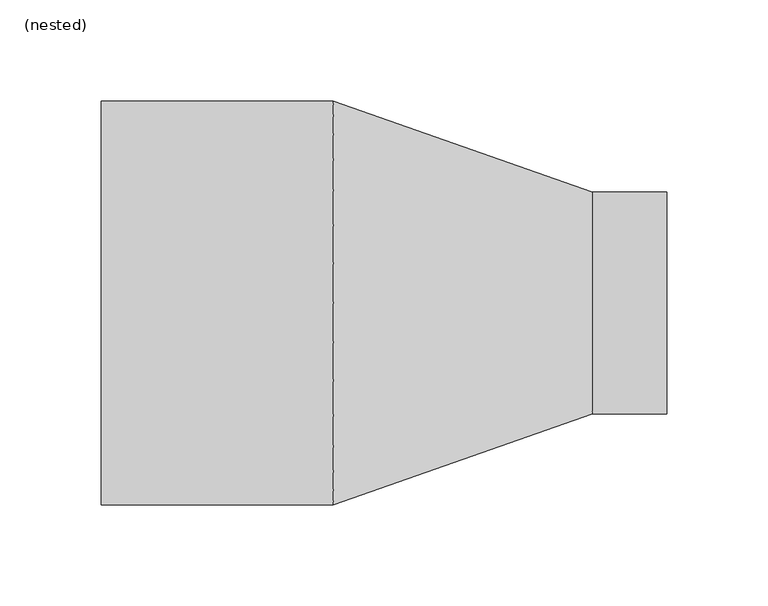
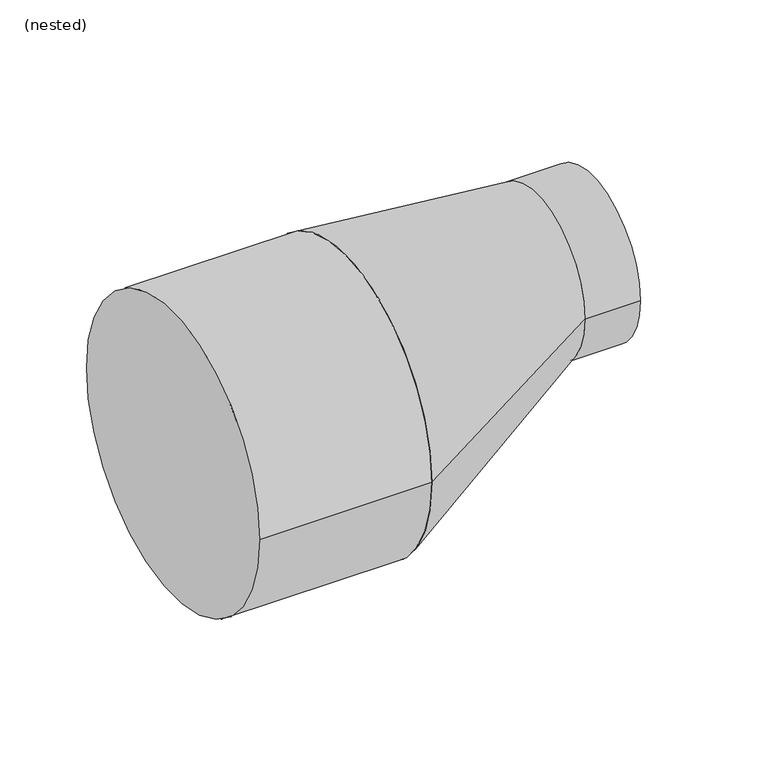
"""IFC4 building model written with IfcOpenShell, lengths in millimetres: pipe fitting geometry, NLRS_52_PIF_UN_PE verloop excentrisch, lang_SH_geb : (nested)."""

from ifc_helpers import new_model, si_unit, point, frame, frame_2d, origin, origin_2d, place, context, project, spatial, circle_curve, trimmed, segment, composite_curve, outline, extrude, source, transform, mapped, element, save
from ifc_brep_helpers import plane_surface, spline_surface, advanced_brep


def nested_0cd4240f(model_context):
    return source(origin(), model_context, "Body", "SolidModel", [
        advanced_brep(
        [(64.0, -55.0, 43.0), (64.0, 55.0, 43.0), (-64.0, -100.0, 0.0), (-64.0, 100.0, 0.0)],
        [
            (0, 1, circle_curve(frame((64.0, 0.0, 43.0), z_axis=(1.0, 0.0, 0.0), x_axis=(0.0, 1.0, 0.0)), 55.0)),
            (1, 0, circle_curve(frame((64.0, 0.0, 43.0), z_axis=(1.0, 0.0, 0.0), x_axis=(0.0, 1.0, 0.0)), 55.0)),
            (2, 3, circle_curve(frame((-64.0, 0.0, 0.0), z_axis=(-1.0, 0.0, 0.0), x_axis=(0.0, 1.0, 0.0)), 100.0)),
            (3, 2, circle_curve(frame((-64.0, 0.0, 0.0), z_axis=(-1.0, 0.0, 0.0), x_axis=(0.0, 1.0, 0.0)), 100.0)),
            (3, 1),
            (0, 2),
        ],
        [
            plane_surface(frame((64.0, 0.0, 43.0), z_axis=(1.0, 0.0, 0.0), x_axis=(0.0, 0.0, -1.0))),
            plane_surface(frame((-64.0, 0.0, 0.0), z_axis=(-1.0, 0.0, 0.0), x_axis=(0.0, 0.0, -1.0))),
            spline_surface(2, 1, [[(-64.0, -100.0, 0.0), (64.0, -55.0, 43.0)], [(-64.0, -100.0, -100.0), (64.0, -55.0, -12.0)], [(-64.0, 0.0, -100.0), (64.0, 0.0, -12.0)], [(-64.0, 100.0, -100.0), (64.0, 55.0, -12.0)], [(-64.0, 100.0, 0.0), (64.0, 55.0, 43.0)]], [3, 2, 3], [2, 2], [0.0, 1.0, 2.0], [0.0, 1.0], weights=[[1.0, 1.0], [0.7071067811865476, 0.7071067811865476], [1.0, 1.0], [0.7071067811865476, 0.7071067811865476], [1.0, 1.0]]),
            spline_surface(2, 1, [[(-64.0, 100.0, 0.0), (64.0, 55.0, 43.0)], [(-64.0, 100.0, 100.0), (64.0, 55.0, 98.0)], [(-64.0, 0.0, 100.0), (64.0, 0.0, 98.0)], [(-64.0, -100.0, 100.0), (64.0, -55.0, 98.0)], [(-64.0, -100.0, 0.0), (64.0, -55.0, 43.0)]], [3, 2, 3], [2, 2], [0.0, 1.0, 2.0], [0.0, 1.0], weights=[[1.0, 1.0], [0.7071067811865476, 0.7071067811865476], [1.0, 1.0], [0.7071067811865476, 0.7071067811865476], [1.0, 1.0]]),
        ],
        [
            (0, [[1, 2]]),
            (1, [[3, 4]]),
            (2, [[-4, 5, -1, 6]]),
            (3, [[-3, -6, -2, -5]]),
        ],
    ),
        extrude(outline(composite_curve([segment(trimmed(circle_curve(frame_2d((0.0, 43.0)), 55.0), [point((-55.0, 43.0))], [point((55.0, 43.0))], False, "CARTESIAN"), True, "CONTINUOUS"), segment(trimmed(circle_curve(frame_2d((0.0, 43.0)), 55.0), [point((55.0, 43.0))], [point((-55.0, 43.0))], False, "CARTESIAN"), True, "CONTINUOUS")], self_intersect=False)), frame((64.0, 0.0, 0.0), z_axis=(1.0, 0.0, 0.0), x_axis=(0.0, 1.0, 0.0)), (0.0, 0.0, 1.0), 37.0),
        extrude(outline(composite_curve([segment(trimmed(circle_curve(origin_2d(), 100.0), [point((-100.0, 0.0))], [point((100.0, 0.0))], False, "CARTESIAN"), True, "CONTINUOUS"), segment(trimmed(circle_curve(origin_2d(), 100.0), [point((100.0, 0.0))], [point((-100.0, 0.0))], False, "CARTESIAN"), True, "CONTINUOUS")], self_intersect=False)), frame((-179.0, 0.0, 0.0), z_axis=(1.0, 0.0, 0.0), x_axis=(0.0, 1.0, 0.0)), (0.0, 0.0, 1.0), 115.0),
    ])


if __name__ == "__main__":
    model = new_model("IFC4")
    model_context = context("Model", 3, world=origin())
    ifc_project = project(units=[si_unit("LENGTHUNIT", "METRE", prefix="MILLI")], contexts=[model_context])
    site = spatial("IfcSite", under=ifc_project)
    building = spatial("IfcBuilding", under=site)
    placement = place(None, origin())
    nested_shape = nested_0cd4240f(model_context)
    element("IfcPipeFitting", 1, ObjectType="NLRS_52_PIF_UN_PE verloop excentrisch, lang_SH_geb : (nested)", at=placement, inside=building, context=model_context, shape_type="MappedRepresentation", body=[
        mapped(nested_shape, transform((0.0, 0.0, 0.0), x_axis=(1.0, 0.0, 0.0), y_axis=(0.0, 1.0, 0.0), z_axis=(0.0, 0.0, 1.0))),
    ])
    save(model, "model.ifc")
